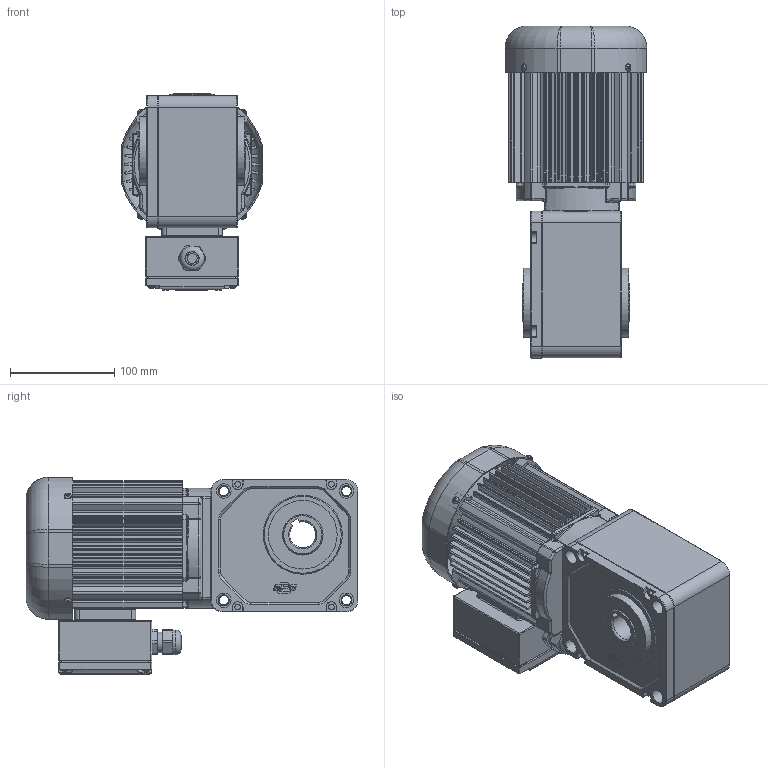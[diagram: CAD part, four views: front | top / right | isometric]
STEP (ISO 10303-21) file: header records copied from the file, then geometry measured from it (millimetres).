
FILE_DESCRIPTION(/* description */ (''),/* implementation_level */ '2;1');
FILE_NAME(/* name */ 'Z:\동력 3D 파일\PCH25_0.2kW_3D.stp',/* time_stamp */ '2021-11-09T09:31:34+09:00',/* author */ ('jaebok'),/* organization */ (''),/* preprocessor_version */ 'ST-DEVELOPER v18.1',/* originating_system */ 'Autodesk Inventor 2022',/* authorisation */ '');
FILE_SCHEMA (('AUTOMOTIVE_DESIGN { 1 0 10303 214 3 1 1 }'));
Products named in the file (1): 부품19
Bounding box: 136.4 x 319 x 189.7 mm (x, y, z)
Volume: 1607535.1 mm3; surface area: 492063.8 mm2
Topology: 1 solids, 28 shells, 1912 faces, 4962 edges, 3140 vertices
Faces by surface type: plane 856, cylinder 697, torus 138, bspline 107, cone 98, sphere 16
Full cylindrical faces by diameter (mm): 3.242 x9, 3.25 x1, 3.6 x4, 4 x21, 5 x13, 5.386 x4, 5.5 x4, 6 x8, 7 x12, 8 x1, 9 x4, 10 x1, 12.5 x1, 14 x8, 15 x1, 20 x2, 21 x1, 23.6 x1, 25 x1, 27 x1, 34 x1, 39 x4, 40 x2, 50 x1, 58 x3, 66 x4, 101 x1, 105 x2, 109 x4
Entity records: 65213 total; most frequent: CARTESIAN_POINT 16010, DIRECTION 10104, ORIENTED_EDGE 9836, EDGE_CURVE 4918, AXIS2_PLACEMENT_3D 3823, VERTEX_POINT 3140, LINE 2458, VECTOR 2458
